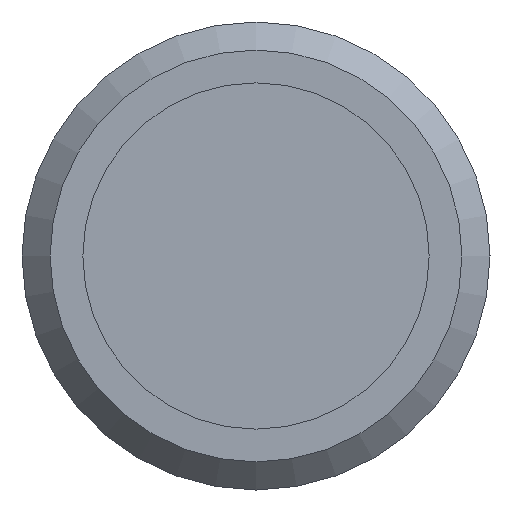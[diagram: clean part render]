
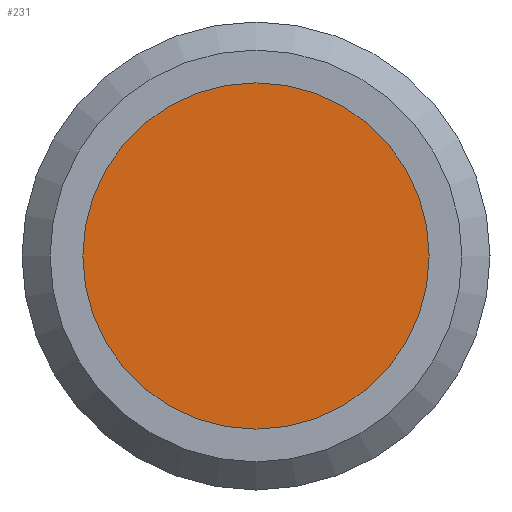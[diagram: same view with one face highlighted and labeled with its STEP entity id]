
A CAD part, left-side view. The second image highlights one B-rep face of the part: STEP entity #231.
In plain terms, the highlighted planar face has unit normal (-1, 0, 0).
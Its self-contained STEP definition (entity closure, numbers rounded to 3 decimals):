
#36=ORIENTED_EDGE('',*,*,#78,.F.);
#78=EDGE_CURVE('',#99,#99,#120,.T.);
#99=VERTEX_POINT('',#400);
#120=CIRCLE('',#267,1.85);
#141=EDGE_LOOP('',(#36));
#183=FACE_BOUND('',#141,.T.);
#225=PLANE('',#266);
#231=ADVANCED_FACE('',(#183),#225,.F.);
#266=AXIS2_PLACEMENT_3D('',#398,#311,#312);
#267=AXIS2_PLACEMENT_3D('',#399,#313,#314);
#311=DIRECTION('',(1.,0.,0.));
#312=DIRECTION('',(0.,0.,-1.));
#313=DIRECTION('',(1.,0.,0.));
#314=DIRECTION('',(0.,0.,-1.));
#398=CARTESIAN_POINT('',(0.05,0.,0.));
#399=CARTESIAN_POINT('',(0.05,0.,0.));
#400=CARTESIAN_POINT('',(0.05,0.,-1.85));
